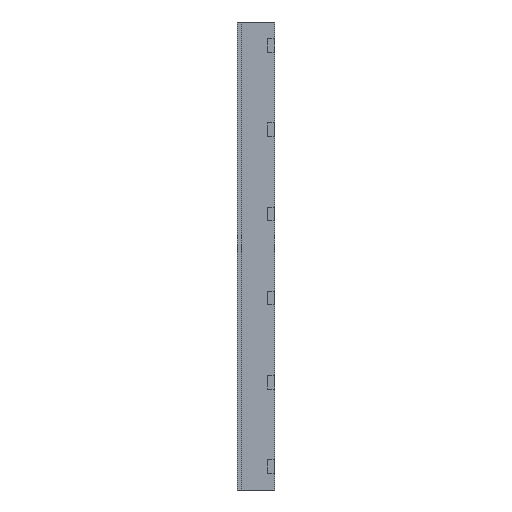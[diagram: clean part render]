
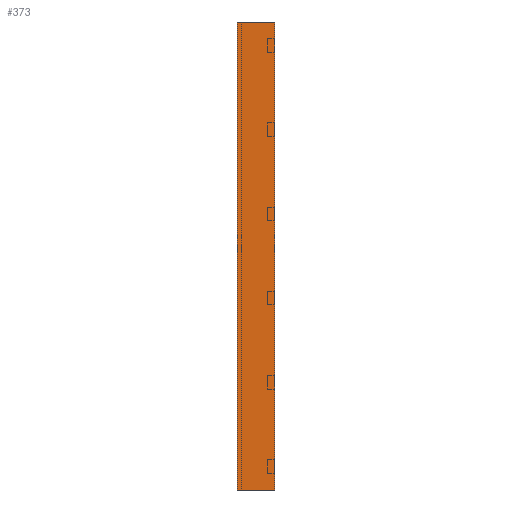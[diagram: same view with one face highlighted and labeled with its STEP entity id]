
A CAD part, left-side view. The second image highlights one B-rep face of the part: STEP entity #373.
In plain terms, the highlighted planar face has unit normal (-1, 0, 0).
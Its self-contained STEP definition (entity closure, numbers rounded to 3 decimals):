
#6 = CARTESIAN_POINT ( 'NONE',  ( 0., 112.5, -1400. ) ) ;
#37 = VECTOR ( 'NONE', #123, 1000. ) ;
#41 = AXIS2_PLACEMENT_3D ( 'NONE', #841, #1301, #1046 ) ;
#74 = LINE ( 'NONE', #993, #82 ) ;
#82 = VECTOR ( 'NONE', #1519, 1000. ) ;
#112 = EDGE_LOOP ( 'NONE', ( #1550, #1245, #159, #1043 ) ) ;
#114 = CARTESIAN_POINT ( 'NONE',  ( 0., 0., -1400. ) ) ;
#123 = DIRECTION ( 'NONE',  ( 0., 0., 1. ) ) ;
#159 = ORIENTED_EDGE ( 'NONE', *, *, #822, .T. ) ;
#213 = VERTEX_POINT ( 'NONE', #1190 ) ;
#331 = PLANE ( 'NONE',  #41 ) ;
#373 = ADVANCED_FACE ( 'NONE', ( #1384 ), #331, .T. ) ;
#379 = DIRECTION ( 'NONE',  ( 0., 0., 1. ) ) ;
#444 = VERTEX_POINT ( 'NONE', #625 ) ;
#487 = VERTEX_POINT ( 'NONE', #632 ) ;
#498 = EDGE_CURVE ( 'NONE', #1632, #444, #1017, .T. ) ;
#625 = CARTESIAN_POINT ( 'NONE',  ( 0., 112.5, 0. ) ) ;
#632 = CARTESIAN_POINT ( 'NONE',  ( 0., 0., 0. ) ) ;
#731 = EDGE_CURVE ( 'NONE', #444, #487, #1382, .T. ) ;
#822 = EDGE_CURVE ( 'NONE', #1632, #213, #74, .T. ) ;
#841 = CARTESIAN_POINT ( 'NONE',  ( 0., 0., -1400. ) ) ;
#993 = CARTESIAN_POINT ( 'NONE',  ( 0., 0., -1400. ) ) ;
#1017 = LINE ( 'NONE', #1547, #1673 ) ;
#1043 = ORIENTED_EDGE ( 'NONE', *, *, #1277, .T. ) ;
#1046 = DIRECTION ( 'NONE',  ( 0., 0., 1. ) ) ;
#1190 = CARTESIAN_POINT ( 'NONE',  ( 0., 0., -1400. ) ) ;
#1221 = CARTESIAN_POINT ( 'NONE',  ( 0., 0., 0. ) ) ;
#1245 = ORIENTED_EDGE ( 'NONE', *, *, #498, .F. ) ;
#1277 = EDGE_CURVE ( 'NONE', #213, #487, #1573, .T. ) ;
#1301 = DIRECTION ( 'NONE',  ( -1., 0., 0. ) ) ;
#1382 = LINE ( 'NONE', #1221, #1585 ) ;
#1384 = FACE_OUTER_BOUND ( 'NONE', #112, .T. ) ;
#1519 = DIRECTION ( 'NONE',  ( 0., -1., 0. ) ) ;
#1547 = CARTESIAN_POINT ( 'NONE',  ( 0., 112.5, -1400. ) ) ;
#1550 = ORIENTED_EDGE ( 'NONE', *, *, #731, .F. ) ;
#1573 = LINE ( 'NONE', #114, #37 ) ;
#1585 = VECTOR ( 'NONE', #1655, 1000. ) ;
#1632 = VERTEX_POINT ( 'NONE', #6 ) ;
#1655 = DIRECTION ( 'NONE',  ( 0., -1., 0. ) ) ;
#1673 = VECTOR ( 'NONE', #379, 1000. ) ;
